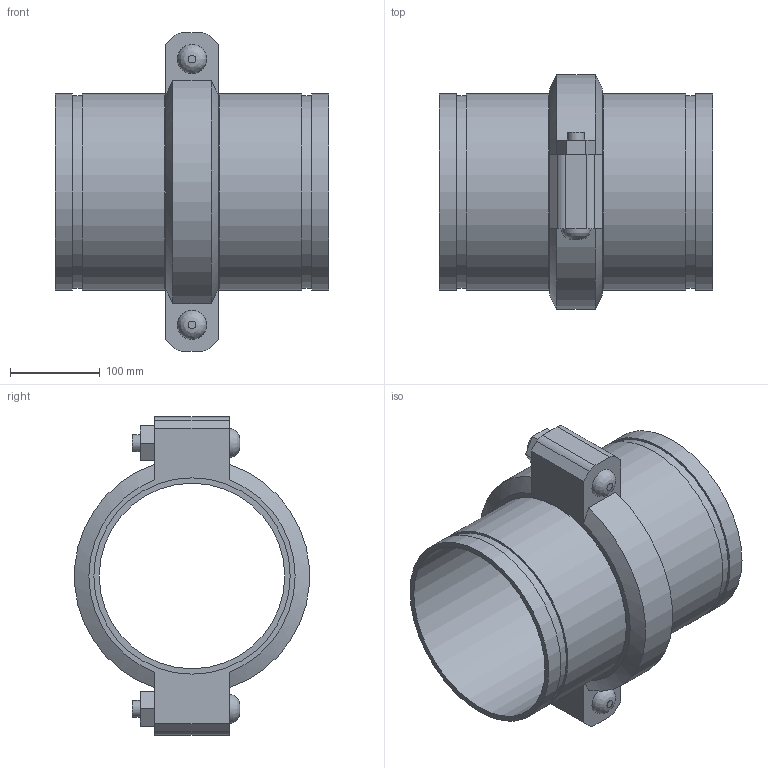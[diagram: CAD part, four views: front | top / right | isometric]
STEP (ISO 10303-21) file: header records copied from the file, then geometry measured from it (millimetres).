
FILE_DESCRIPTION(/* description */ ('VIC SS EXPANSION JOINT 1 COUPLING COMPRESSED STYLE 155P (OGS) (POTABLE WATER) ','CAx-IF Rec.Pracs.---Representation and Presentation of Product Manufacturing Information (PMI)---4.0---2014-10-13'),/* implementation_level */ '2;1');
FILE_NAME(/* name */ 'C:\Users\kkamble\AppData\Roaming\Autodesk\ApplicationPlugins\Victaulic.Temp\A829\Victaulic_SS_Expansion Joint_Compressed_1 Coupling_Style 155P (OGS)-Potable Water_1 Coup_Comp_8 (200).stp',/* time_stamp */ '2021-07-16T17:04:14+06:00',/* author */ ('kkamble'),/* organization */ ('Victaulic'),/* preprocessor_version */ 'ST-DEVELOPER v17.2',/* originating_system */ 'Autodesk Inventor 2019',/* authorisation */ '');
FILE_SCHEMA (('AP242_MANAGED_MODEL_BASED_3D_ENGINEERING_MIM_LF { 1 0 10303 442 1 1 4 }'));
Length unit declared in the file: inch
Products named in the file (3): 155P-08.0; Nipple-08.0; 075-08.0
Assembly tree (3 placements, depth 2):
  155P-08.0
    Nipple-08.0  x2
    075-08.0
Bounding box: 304.8 x 261.72 x 354.84 mm (x, y, z)
Volume: 2544107.8 mm3; surface area: 603377.2 mm2
Topology: 3 solids, 5 shells, 77 faces, 187 edges, 134 vertices
Faces by surface type: plane 46, cylinder 25, cone 4, bspline 2
Full cylindrical faces by diameter (mm): 19.05 x4, 21.209 x2, 206.985 x2, 214.401 x4, 219.075 x7
Entity records: 2189 total; most frequent: CARTESIAN_POINT 406, DIRECTION 351, ORIENTED_EDGE 314, EDGE_CURVE 157, AXIS2_PLACEMENT_3D 133, VERTEX_POINT 110, LINE 85, VECTOR 85
